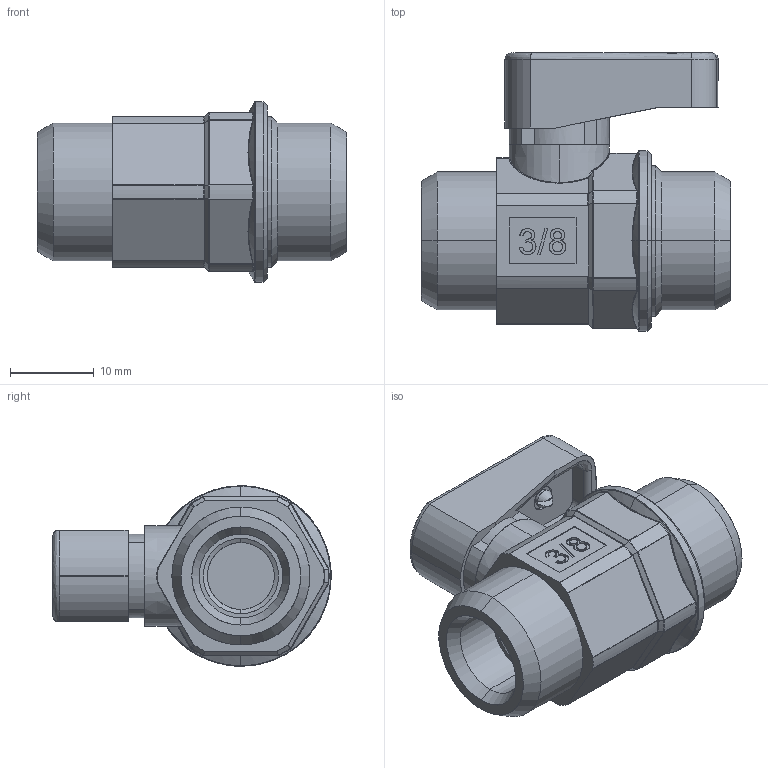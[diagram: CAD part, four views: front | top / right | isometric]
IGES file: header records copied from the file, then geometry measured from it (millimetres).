
Start section: SolidWorks IGES file using analytic representation for surfaces
Global section: file name: K:\Disegni Esecutivi\GHILUX\ASSIEMI_GHILUX\6420\ASSIEMI_PIENI_6420\0642000005.IGS; native system: SolidWorks 2008; preprocessor: SolidWorks 2008; author: cad02; date: 080610.153420; units: millimetre
Bounding box: 37 x 33.3 x 21.6 mm (x, y, z)
Surface area: 4765.4 mm2 (no closed solid volume)
Topology: 0 solids, 0 shells, 737 faces, 13213 edges, 13195 vertices
Faces by surface type: bspline 557, revolution 180
